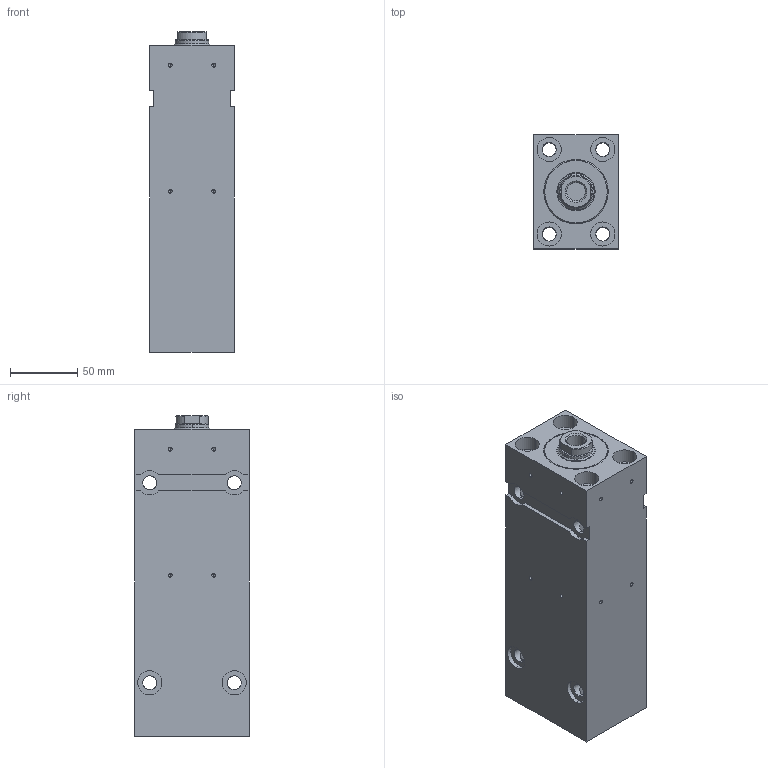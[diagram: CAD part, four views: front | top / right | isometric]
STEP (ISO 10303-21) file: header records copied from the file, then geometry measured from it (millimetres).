
FILE_DESCRIPTION (( 'STEP AP203' ), '1' );
FILE_NAME ('BZ_320.40_25.78.201.140 PP.KBC40__DH_0_.STEP', '2022-05-09T15:56:59', ( '' ), ( '' ), 'SwSTEP 2.0', 'SolidWorks 2020', '' );
FILE_SCHEMA (( 'CONFIG_CONTROL_DESIGN' ));
Length unit declared in the file: millimetre
Products named in the file (7): _Dichtungssatz f. BZ_RZ_FZ.40_25.xx.201.140 Artikelnr._ 051110(0)^BZ_320.40_25.78.201.140 PP.KBC40__DH_0_(2)_BZ_320.40_25.78.201.140 PP.KBC40__DH_0_; BZ_320.40_25.78.201.140 PP.KBC40__DH_0_(2)^BZ_320.40_25.78.201.140 PP.KBC40__DH_0_; _Kolbenstange komplett f. BZ_RZ_FZ.40_25.xx.201.140(0_11 1 16 2 0 0 10 25 0 0 0)0^BZ_320.40_25.78.201.140 PP.KBC40__DH_0_(2)_BZ_320.40_25.78.201.140 PP.KBC40__DH_0_; _Gehaeuse f. BZ320.40_25.Fehler in IDBF.201.140Fehler in IDNT00(1340frei278000))7^BZ_320.40_25.78.201.140 PP.KBC40__DH_0_(2)_BZ_320.40_25.78.201.140 PP.KBC40__DH_0_; _Verschraubung komplett mit Dichtung f. BZ_RZ_FZ.40_25.201, Art.-Nr._ 041752(201)^BZ_320.40_25.78.201.140 PP.KBC40__DH_0_(2)_BZ_320.40_25.78.201.140 PP.KBC40__DH_0_; BZ_320.40_25.78.201.140 PP.KBC40__DH_0_; _Verschraubung hinten komplett mit Dichtung f. BZ500.40_25 LLL^BZ_320.40_25.78.201.140 PP.KBC40__DH_0_(2)_BZ_320.40_25.78.201.140 PP.KBC40__DH_0_
Assembly tree (6 placements, depth 3):
  BZ_320.40_25.78.201.140 PP.KBC40__DH_0_
    BZ_320.40_25.78.201.140 PP.KBC40__DH_0_(2)^BZ_320.40_25.78.201.140 PP.KBC40__DH_0_
      _Gehaeuse f. BZ320.40_25.Fehler in IDBF.201.140Fehler in IDNT00(1340frei278000))7^BZ_320.40_25.78.201.140 PP.KBC40__DH_0_(2)_BZ_320.40_25.78.201.140 PP.KBC40__DH_0_
      _Verschraubung hinten komplett mit Dichtung f. BZ500.40_25 LLL^BZ_320.40_25.78.201.140 PP.KBC40__DH_0_(2)_BZ_320.40_25.78.201.140 PP.KBC40__DH_0_
      _Verschraubung komplett mit Dichtung f. BZ_RZ_FZ.40_25.201, Art.-Nr._ 041752(201)^BZ_320.40_25.78.201.140 PP.KBC40__DH_0_(2)_BZ_320.40_25.78.201.140 PP.KBC40__DH_0_
      _Dichtungssatz f. BZ_RZ_FZ.40_25.xx.201.140 Artikelnr._ 051110(0)^BZ_320.40_25.78.201.140 PP.KBC40__DH_0_(2)_BZ_320.40_25.78.201.140 PP.KBC40__DH_0_
      _Kolbenstange komplett f. BZ_RZ_FZ.40_25.xx.201.140(0_11 1 16 2 0 0 10 25 0 0 0)0^BZ_320.40_25.78.201.140 PP.KBC40__DH_0_(2)_BZ_320.40_25.78.201.140 PP.KBC40__DH_0_
Bounding box: 63 x 85 x 239 mm (x, y, z)
Volume: 996005.1 mm3; surface area: 184851.8 mm2
Topology: 5 solids, 5 shells, 245 faces, 608 edges, 364 vertices
Faces by surface type: cylinder 150, plane 57, cone 38
Entity records: 8114 total; most frequent: CARTESIAN_POINT 1622, DIRECTION 1270, ORIENTED_EDGE 1168, EDGE_CURVE 584, AXIS2_PLACEMENT_3D 507, VERTEX_POINT 364, EDGE_LOOP 302, LINE 256
